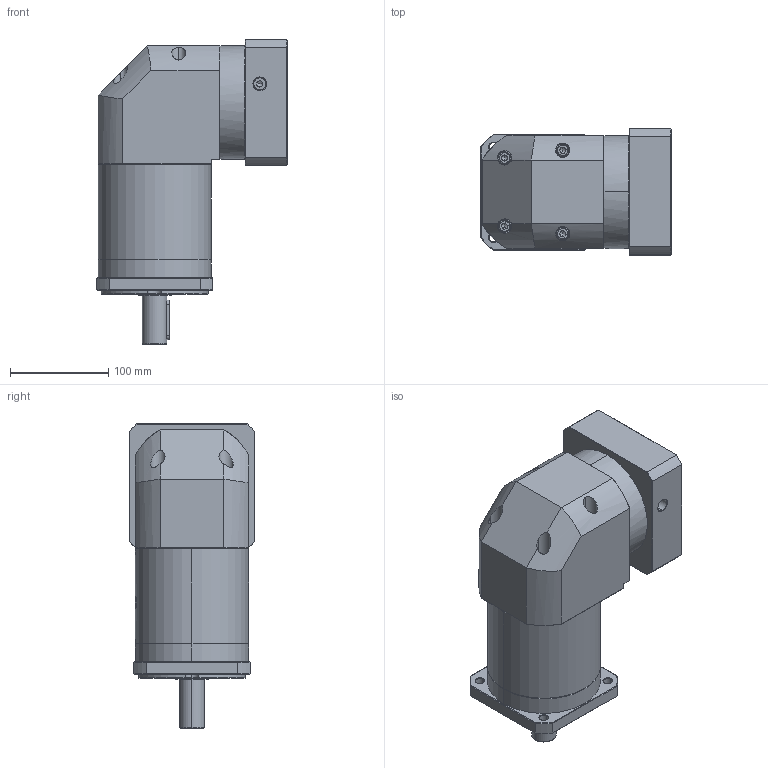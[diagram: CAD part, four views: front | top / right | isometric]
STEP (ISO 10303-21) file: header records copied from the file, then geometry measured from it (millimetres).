
FILE_DESCRIPTION (( 'STEP AP214' ), '1' );
FILE_NAME ('ZFR120A-D25-L3-P2-24-110-145-M8.step', '2023-08-27T08:05:42', ( '' ), ( '' ), 'SwSTEP 2.0', 'SolidWorks 2016', '' );
FILE_SCHEMA (( 'AUTOMOTIVE_DESIGN' ));
Length unit declared in the file: millimetre
Products named in the file (1): ZFR120A-D25-L3-P2-24-110-145-M8
Bounding box: 193.9 x 128 x 310 mm (x, y, z)
Volume: 3567180.2 mm3; surface area: 272074.7 mm2
Topology: 6 solids, 6 shells, 2265 faces, 5983 edges, 3823 vertices
Faces by surface type: plane 1061, cylinder 434, bspline 424, cone 338, torus 8
Entity records: 124140 total; most frequent: CARTESIAN_POINT 48690, ORIENTED_EDGE 11906, DIRECTION 8636, EDGE_CURVE 5953, VERTEX_POINT 3823, LINE 3160, VECTOR 3160, AXIS2_PLACEMENT_3D 2738
